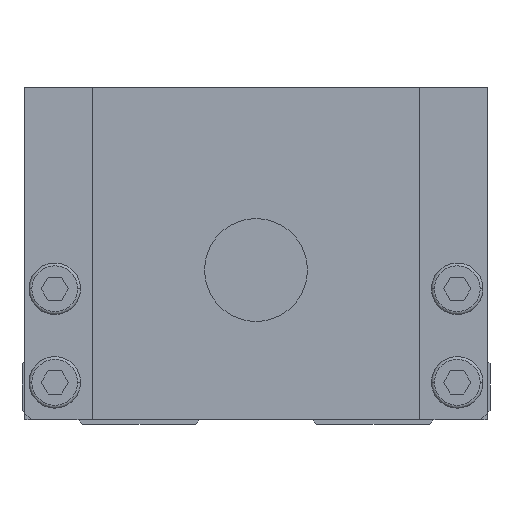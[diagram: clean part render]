
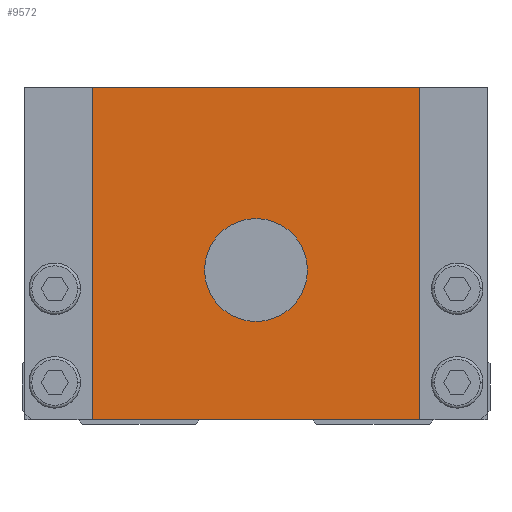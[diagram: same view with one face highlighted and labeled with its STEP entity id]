
A CAD part, front view. The second image highlights one B-rep face of the part: STEP entity #9572.
In plain terms, the highlighted planar face has unit normal (0, -1, 0).
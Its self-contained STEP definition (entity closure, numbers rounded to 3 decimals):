
#3854=EDGE_CURVE('',#8716,#8650,#10329,.T.);
#4724=EDGE_CURVE('',#8650,#8716,#11307,.T.);
#5100=EDGE_CURVE('',#6940,#6032,#11727,.T.);
#5540=EDGE_CURVE('',#6658,#6940,#12206,.T.);
#6032=VERTEX_POINT('',#12752);
#6526=VERTEX_POINT('',#13302);
#6658=VERTEX_POINT('',#13444);
#6938=EDGE_CURVE('',#6032,#6526,#13760,.T.);
#6940=VERTEX_POINT('',#13762);
#7510=EDGE_CURVE('',#6658,#6526,#14392,.T.);
#8650=VERTEX_POINT('',#15662);
#8716=VERTEX_POINT('',#15735);
#9572=ADVANCED_FACE('',(#16695,#16696),#16697,.F.);
#10329=CIRCLE('',#17697,5.5);
#11307=CIRCLE('',#19092,5.5);
#11727=LINE('',#19737,#19738);
#12206=LINE('',#20511,#20512);
#12752=CARTESIAN_POINT('',(17.5,0.0,0.5));
#13302=CARTESIAN_POINT('',(-17.5,0.0,0.5));
#13444=CARTESIAN_POINT('',(-17.5,0.0,36.0));
#13760=LINE('',#22743,#22744);
#13762=CARTESIAN_POINT('',(17.5,0.0,36.0));
#14392=LINE('',#23665,#23666);
#15662=CARTESIAN_POINT('',(-5.5,0.0,16.5));
#15735=CARTESIAN_POINT('',(5.5,0.0,16.5));
#16695=FACE_BOUND('',#26962,.T.);
#16696=FACE_OUTER_BOUND('',#26963,.T.);
#16697=PLANE('',#26964);
#17697=AXIS2_PLACEMENT_3D('',#27810,#27811,#27812);
#19092=AXIS2_PLACEMENT_3D('',#28877,#28878,#28879);
#19737=CARTESIAN_POINT('',(17.5,0.0,18.25));
#19738=VECTOR('',#29335,1.0);
#20511=CARTESIAN_POINT('',(0.0,0.0,36.0));
#20512=VECTOR('',#29842,1.0);
#22743=CARTESIAN_POINT('',(0.0,0.0,0.5));
#22744=VECTOR('',#31722,1.0);
#23665=CARTESIAN_POINT('',(-17.5,0.0,18.25));
#23666=VECTOR('',#32424,1.0);
#26962=EDGE_LOOP('',(#35133,#35134));
#26963=EDGE_LOOP('',(#35135,#35136,#35137,#35138));
#26964=AXIS2_PLACEMENT_3D('',#35139,#35140,#35141);
#27810=CARTESIAN_POINT('',(0.0,0.0,16.5));
#27811=DIRECTION('',(-0.0,1.0,0.0));
#27812=DIRECTION('',(1.0,0.0,0.0));
#28877=CARTESIAN_POINT('',(0.0,0.0,16.5));
#28878=DIRECTION('',(-0.0,1.0,0.0));
#28879=DIRECTION('',(1.0,0.0,0.0));
#29335=DIRECTION('',(0.0,0.0,-1.0));
#29842=DIRECTION('',(1.0,0.0,0.0));
#31722=DIRECTION('',(-1.0,0.0,0.0));
#32424=DIRECTION('',(0.0,0.0,-1.0));
#35133=ORIENTED_EDGE('',*,*,#3854,.T.);
#35134=ORIENTED_EDGE('',*,*,#4724,.T.);
#35135=ORIENTED_EDGE('',*,*,#7510,.T.);
#35136=ORIENTED_EDGE('',*,*,#6938,.F.);
#35137=ORIENTED_EDGE('',*,*,#5100,.F.);
#35138=ORIENTED_EDGE('',*,*,#5540,.F.);
#35139=CARTESIAN_POINT('',(0.0,0.0,18.25));
#35140=DIRECTION('',(0.0,1.0,0.0));
#35141=DIRECTION('',(0.0,0.0,1.0));
